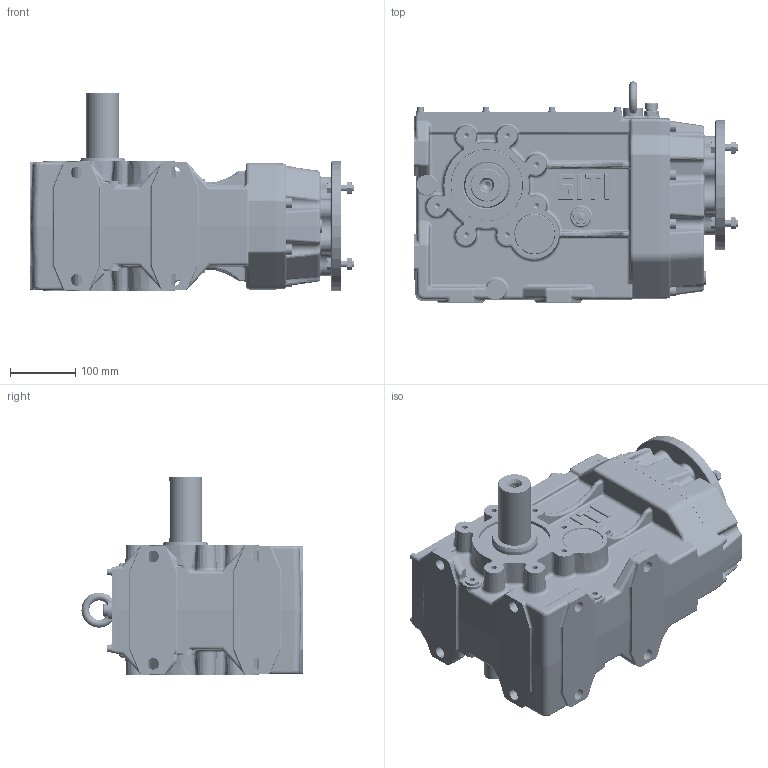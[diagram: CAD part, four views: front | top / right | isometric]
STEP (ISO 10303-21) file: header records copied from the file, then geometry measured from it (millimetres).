
FILE_DESCRIPTION((''),'2;1');
FILE_NAME('C:\Users\m.piscopiello.SITIRIDUTTORI\Desktop\3D x SITO\MBH 100 PAM 80\MBH_100 MS-B PAM 80.stp','2013-05-02T15:04:42',('m.piscopiello'),(''),'Autodesk Inventor 2012','Autodesk Inventor 2012','');
FILE_SCHEMA(('CONFIG_CONTROL_DESIGN'));
Length unit declared in the file: millimetre
Products named in the file (1): MBH_100 MS-B PAM 80
Bounding box: 498.5 x 340 x 305 mm (x, y, z)
Volume: 7030948.6 mm3; surface area: 1399973.9 mm2
Topology: 61 solids, 63 shells, 3835 faces, 8982 edges, 5335 vertices
Faces by surface type: cylinder 1229, plane 1141, bspline 553, torus 388, cone 290, sphere 234
Full cylindrical faces by diameter (mm): 4.917 x8, 6 x16, 6.4 x8, 6.647 x8, 7 x8, 8 x8, 8.376 x22, 9 x8, 10 x32, 10.106 x3, 11 x14, 12 x9, 12.5 x8, 13 x8, 13.835 x1, 14 x8, 14.63 x4, 14.95 x1, 16 x9, 16.6 x7, 17 x1, 18 x8, 19 x1, 19.05 x1, 19.5 x1, 20 x1, 26 x1, 30 x5, 37.5 x1, 39.37 x1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
Entity records: 128554 total; most frequent: CARTESIAN_POINT 42482, DIRECTION 17380, ORIENTED_EDGE 16230, EDGE_CURVE 8115, AXIS2_PLACEMENT_3D 7212, VERTEX_POINT 5087, EDGE_LOOP 4603, STYLED_ITEM 3893
